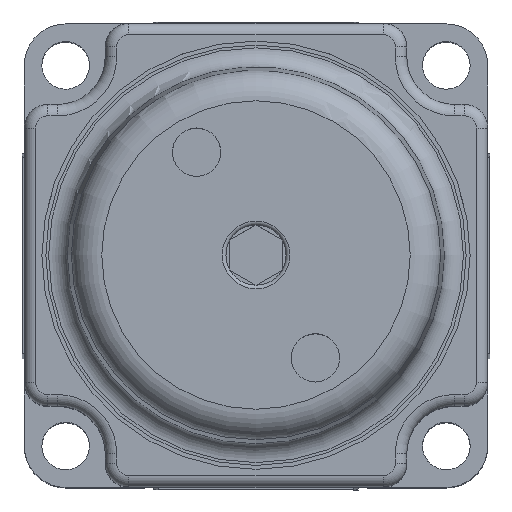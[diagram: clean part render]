
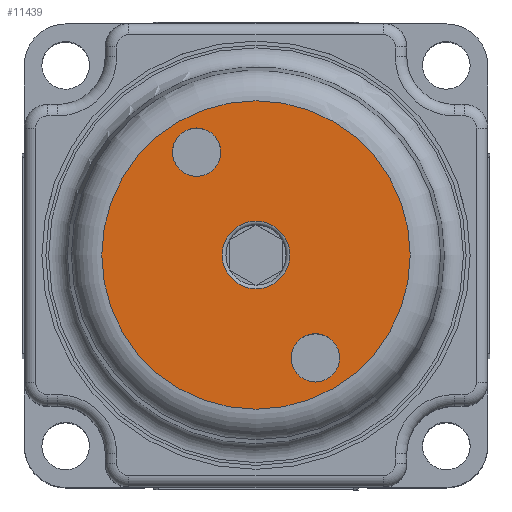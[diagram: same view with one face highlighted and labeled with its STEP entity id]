
A CAD part, top view. The second image highlights one B-rep face of the part: STEP entity #11439.
In plain terms, the highlighted planar face has unit normal (0, 0, 1).
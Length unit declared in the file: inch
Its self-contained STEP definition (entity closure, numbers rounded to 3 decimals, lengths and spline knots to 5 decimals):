
#115=FACE_BOUND('',#1664,.T.);
#116=FACE_BOUND('',#1665,.T.);
#117=FACE_BOUND('',#1666,.T.);
#959=FACE_OUTER_BOUND('',#1663,.T.);
#1663=EDGE_LOOP('',(#9091,#9092));
#1664=EDGE_LOOP('',(#9093,#9094));
#1665=EDGE_LOOP('',(#9095,#9096));
#1666=EDGE_LOOP('',(#9097,#9098));
#3917=CIRCLE('',#12735,0.089);
#3922=CIRCLE('',#12740,0.089);
#3929=CIRCLE('',#12749,0.4051);
#3930=CIRCLE('',#12750,0.4051);
#3931=CIRCLE('',#12751,0.0635);
#3932=CIRCLE('',#12752,0.0635);
#3933=CIRCLE('',#12753,0.0635);
#3934=CIRCLE('',#12754,0.0635);
#4872=VERTEX_POINT('',#19341);
#4873=VERTEX_POINT('',#19342);
#4879=VERTEX_POINT('',#19363);
#4880=VERTEX_POINT('',#19364);
#4881=VERTEX_POINT('',#19367);
#4882=VERTEX_POINT('',#19368);
#4883=VERTEX_POINT('',#19371);
#4884=VERTEX_POINT('',#19372);
#6325=EDGE_CURVE('',#4872,#4873,#3917,.T.);
#6330=EDGE_CURVE('',#4873,#4872,#3922,.T.);
#6338=EDGE_CURVE('',#4879,#4880,#3929,.T.);
#6339=EDGE_CURVE('',#4880,#4879,#3930,.T.);
#6340=EDGE_CURVE('',#4881,#4882,#3931,.T.);
#6341=EDGE_CURVE('',#4882,#4881,#3932,.T.);
#6342=EDGE_CURVE('',#4883,#4884,#3933,.T.);
#6343=EDGE_CURVE('',#4884,#4883,#3934,.T.);
#9091=ORIENTED_EDGE('',*,*,#6338,.T.);
#9092=ORIENTED_EDGE('',*,*,#6339,.T.);
#9093=ORIENTED_EDGE('',*,*,#6340,.T.);
#9094=ORIENTED_EDGE('',*,*,#6341,.T.);
#9095=ORIENTED_EDGE('',*,*,#6342,.T.);
#9096=ORIENTED_EDGE('',*,*,#6343,.T.);
#9097=ORIENTED_EDGE('',*,*,#6325,.F.);
#9098=ORIENTED_EDGE('',*,*,#6330,.F.);
#10283=PLANE('',#12748);
#11439=ADVANCED_FACE('',(#959,#115,#116,#117),#10283,.T.);
#12735=AXIS2_PLACEMENT_3D('',#19343,#15781,#15782);
#12740=AXIS2_PLACEMENT_3D('',#19351,#15791,#15792);
#12748=AXIS2_PLACEMENT_3D('',#19362,#15808,#15809);
#12749=AXIS2_PLACEMENT_3D('',#19365,#15810,#15811);
#12750=AXIS2_PLACEMENT_3D('',#19366,#15812,#15813);
#12751=AXIS2_PLACEMENT_3D('',#19369,#15814,#15815);
#12752=AXIS2_PLACEMENT_3D('',#19370,#15816,#15817);
#12753=AXIS2_PLACEMENT_3D('',#19373,#15818,#15819);
#12754=AXIS2_PLACEMENT_3D('',#19374,#15820,#15821);
#15781=DIRECTION('center_axis',(0.,0.,1.));
#15782=DIRECTION('ref_axis',(0.5,-0.866,0.));
#15791=DIRECTION('center_axis',(0.,0.,1.));
#15792=DIRECTION('ref_axis',(0.5,-0.866,0.));
#15808=DIRECTION('center_axis',(0.,0.,1.));
#15809=DIRECTION('ref_axis',(1.,0.,0.));
#15810=DIRECTION('center_axis',(0.,0.,
1.));
#15811=DIRECTION('ref_axis',(-0.5,0.866,0.));
#15812=DIRECTION('center_axis',(0.,0.,
1.));
#15813=DIRECTION('ref_axis',(-0.5,0.866,0.));
#15814=DIRECTION('center_axis',(0.,0.,
-1.));
#15815=DIRECTION('ref_axis',(0.414,0.91,0.));
#15816=DIRECTION('center_axis',(0.,0.,
-1.));
#15817=DIRECTION('ref_axis',(0.414,0.91,0.));
#15818=DIRECTION('center_axis',(0.,0.,
-1.));
#15819=DIRECTION('ref_axis',(0.414,0.91,0.));
#15820=DIRECTION('center_axis',(0.,0.,
-1.));
#15821=DIRECTION('ref_axis',(0.414,0.91,0.));
#19341=CARTESIAN_POINT('',(-0.2329,0.11242,0.96745));
#19342=CARTESIAN_POINT('',(-0.22097,0.06792,0.96745));
#19343=CARTESIAN_POINT('Origin',(-0.30997,0.06792,
0.96745));
#19351=CARTESIAN_POINT('Origin',(-0.30997,0.06792,
0.96745));
#19362=CARTESIAN_POINT('Origin',(-0.66114,-0.13483,
0.96745));
#19363=CARTESIAN_POINT('',(0.04086,0.27048,0.96745));
#19364=CARTESIAN_POINT('',(-0.71508,0.06792,0.96745));
#19365=CARTESIAN_POINT('Origin',(-0.30997,0.06792,
0.96745));
#19366=CARTESIAN_POINT('Origin',(-0.30997,0.06792,
0.96745));
#19367=CARTESIAN_POINT('',(-0.41098,0.36987,0.96745));
#19368=CARTESIAN_POINT('',(-0.52096,0.30637,0.96745));
#19369=CARTESIAN_POINT('Origin',(-0.46597,0.33812,0.96745));
#19370=CARTESIAN_POINT('Origin',(-0.46597,0.33812,0.96745));
#19371=CARTESIAN_POINT('',(-0.09898,-0.17053,0.96745));
#19372=CARTESIAN_POINT('',(-0.20896,-0.23403,0.96745));
#19373=CARTESIAN_POINT('Origin',(-0.15397,-0.20228,
0.96745));
#19374=CARTESIAN_POINT('Origin',(-0.15397,-0.20228,
0.96745));
